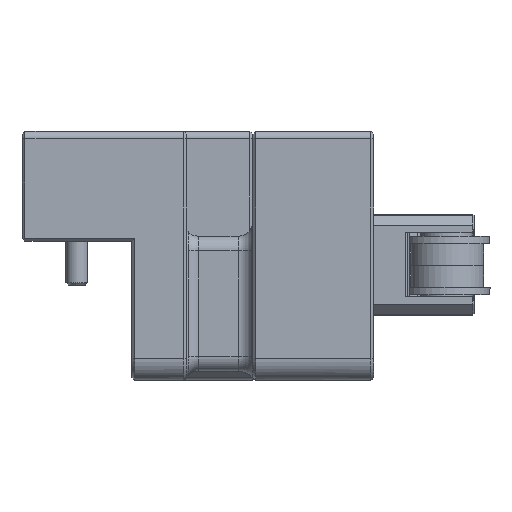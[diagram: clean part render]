
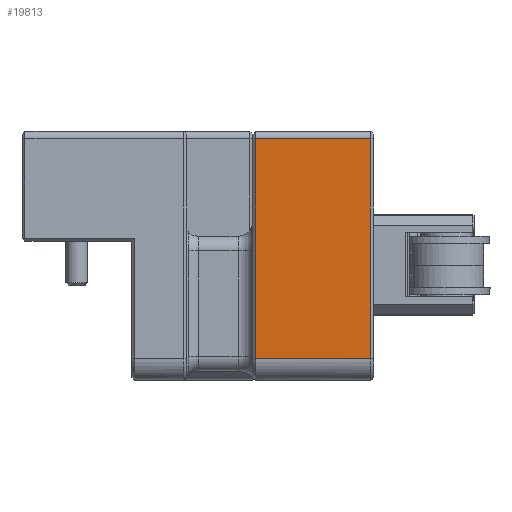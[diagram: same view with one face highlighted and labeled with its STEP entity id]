
A CAD part, left-side view. The second image highlights one B-rep face of the part: STEP entity #19813.
In plain terms, the highlighted planar face has unit normal (-1, 0, 0).
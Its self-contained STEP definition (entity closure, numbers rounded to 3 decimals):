
#1508=PLANE('',#21930);
#2976=FACE_OUTER_BOUND('',#4212,.T.);
#4212=EDGE_LOOP('',(#17887,#17888,#17889,#17890));
#5581=LINE('',#39861,#6973);
#5584=LINE('',#39868,#6976);
#5602=LINE('',#39919,#6994);
#5603=LINE('',#39920,#6995);
#6973=VECTOR('',#26887,1000.);
#6976=VECTOR('',#26894,1000.);
#6994=VECTOR('',#26936,1000.);
#6995=VECTOR('',#26937,1000.);
#9657=VERTEX_POINT('',#39854);
#9659=VERTEX_POINT('',#39860);
#9661=VERTEX_POINT('',#39866);
#9682=VERTEX_POINT('',#39918);
#12418=EDGE_CURVE('',#9659,#9657,#5581,.T.);
#12422=EDGE_CURVE('',#9657,#9661,#5584,.T.);
#12447=EDGE_CURVE('',#9661,#9682,#5602,.T.);
#12448=EDGE_CURVE('',#9682,#9659,#5603,.T.);
#17887=ORIENTED_EDGE('',*,*,#12422,.T.);
#17888=ORIENTED_EDGE('',*,*,#12447,.T.);
#17889=ORIENTED_EDGE('',*,*,#12448,.T.);
#17890=ORIENTED_EDGE('',*,*,#12418,.T.);
#19813=ADVANCED_FACE('',(#2976),#1508,.F.);
#21930=AXIS2_PLACEMENT_3D('',#39917,#26934,#26935);
#26887=DIRECTION('',(0.,0.,1.));
#26894=DIRECTION('',(0.,1.,0.));
#26934=DIRECTION('center_axis',(1.,0.,0.));
#26935=DIRECTION('ref_axis',(0.,1.,0.));
#26936=DIRECTION('',(0.,0.,-1.));
#26937=DIRECTION('',(0.,-1.,0.));
#39854=CARTESIAN_POINT('',(-7.5,124.833,14.));
#39860=CARTESIAN_POINT('',(-7.5,124.833,-16.014));
#39861=CARTESIAN_POINT('',(-7.5,124.833,-8.55));
#39866=CARTESIAN_POINT('',(-7.5,140.533,14.));
#39868=CARTESIAN_POINT('',(-7.5,157.433,14.));
#39917=CARTESIAN_POINT('Origin',(-7.5,157.433,-8.55));
#39918=CARTESIAN_POINT('',(-7.5,140.533,-16.014));
#39919=CARTESIAN_POINT('',(-7.5,140.533,-8.55));
#39920=CARTESIAN_POINT('',(-7.5,157.433,-16.014));
